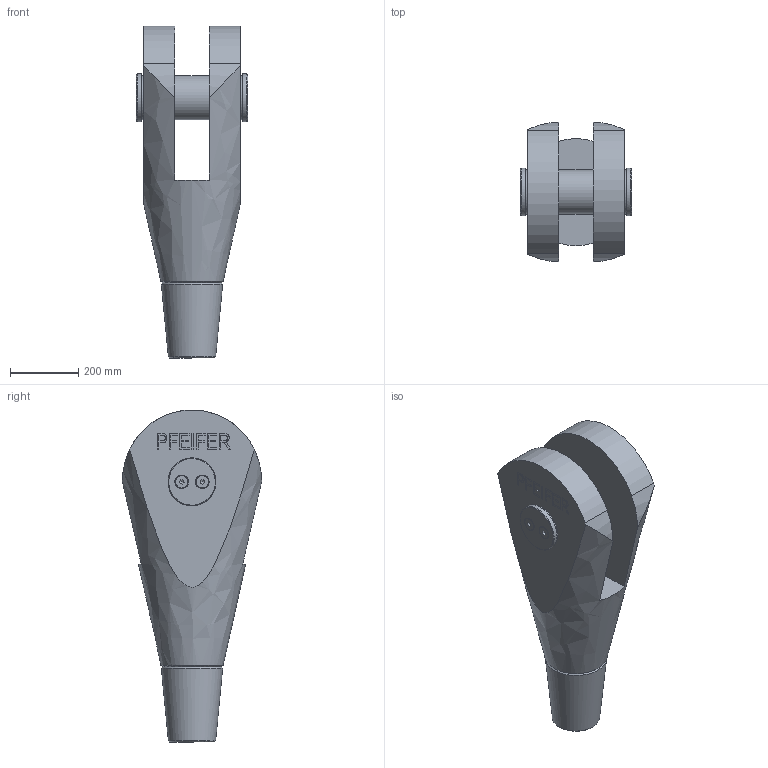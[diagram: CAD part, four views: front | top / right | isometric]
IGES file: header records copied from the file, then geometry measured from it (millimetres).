
Global section: file name: 520-120-GAK; native system: Autodesk Inventor 2016; preprocessor: unknown; author: Administrator; date: 20200625.080732; units: centimetre
Bounding box: 327 x 407.09 x 969.95 mm (x, y, z)
Volume: 44161541.2 mm3; surface area: 1429012.6 mm2
Topology: 3 solids, 10 shells, 241 faces, 638 edges, 429 vertices
Faces by surface type: bspline 241
